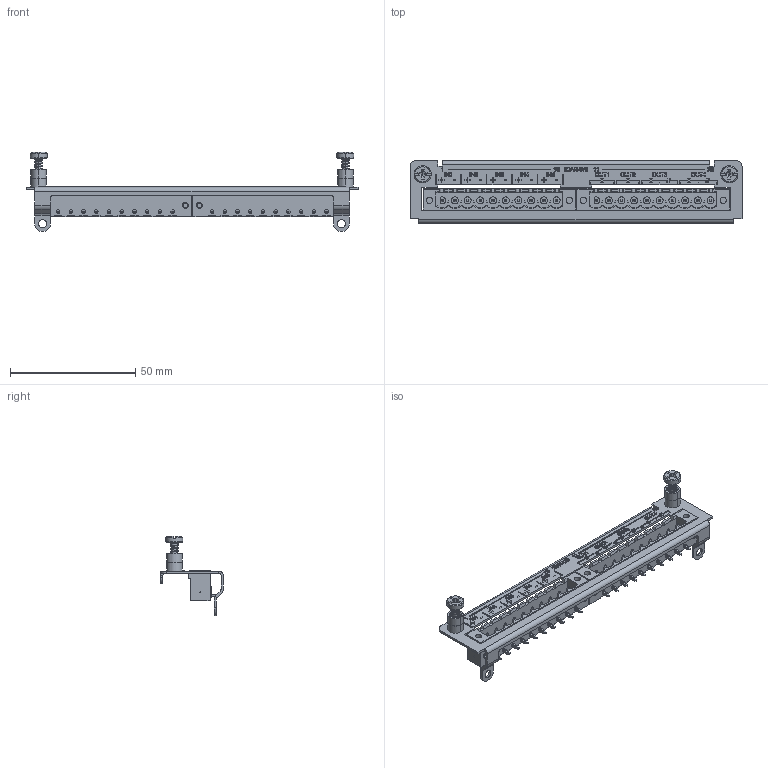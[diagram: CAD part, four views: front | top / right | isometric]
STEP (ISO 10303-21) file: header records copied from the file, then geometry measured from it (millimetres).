
FILE_DESCRIPTION(/* description */ (''),/* implementation_level */ '2;1');
FILE_NAME(/* name */ 'C:\Users\jondi\Desktop\FLEX 3D STP\W9.stp',/* time_stamp */ '2021-03-10T15:33:44-06:00',/* author */ ('jondi'),/* organization */ (''),/* preprocessor_version */ 'ST-DEVELOPER v17.2',/* originating_system */ 'Autodesk Inventor 2019',/* authorisation */ '');
FILE_SCHEMA (('AUTOMOTIVE_DESIGN { 1 0 10303 214 3 1 1 }'));
Products named in the file (7): W9; 9579230107; 9579200027; 9579200027_1; 44090; 9579200062; 44082
Assembly tree (8 placements, depth 4):
  W9
    9579230107
      9579200027
        9579200027_1
      44090  x2
    9579200062
    44082  x2
Bounding box: 132.59 x 25.02 x 31.72 mm (x, y, z)
Volume: 9744.4 mm3; surface area: 16183.1 mm2
Topology: 80 solids, 80 shells, 2728 faces, 6312 edges, 3906 vertices
Faces by surface type: plane 2266, bspline 188, cylinder 176, cone 74, sphere 20, torus 4
Full cylindrical faces by diameter (mm): 0.434 x2, 1.4 x20, 1.8 x4, 2.4 x4, 2.5 x4, 2.8 x18, 3.251 x2, 4.826 x2
Entity records: 55915 total; most frequent: CARTESIAN_POINT 14015, ORIENTED_EDGE 8602, DIRECTION 7662, EDGE_CURVE 4301, LINE 3410, VECTOR 3410, VERTEX_POINT 2719, AXIS2_PLACEMENT_3D 2126
